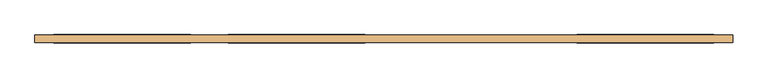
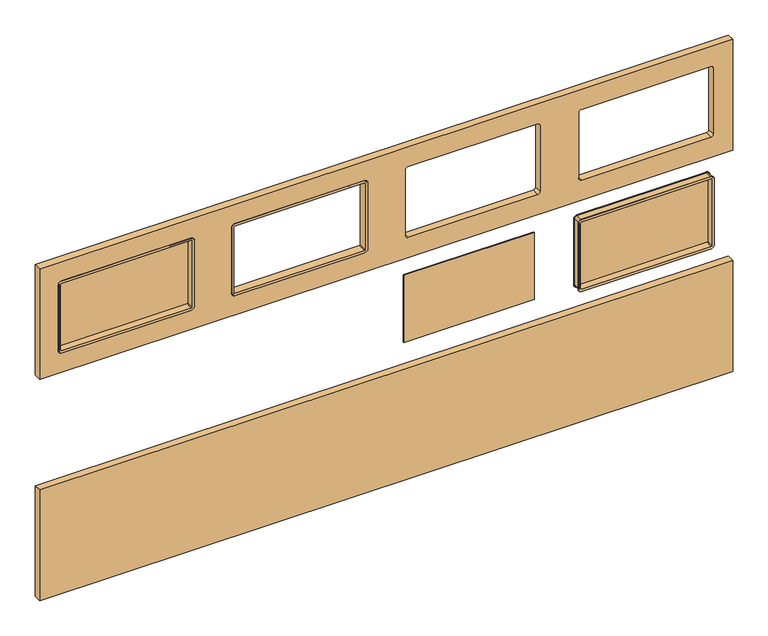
"""IFC4 building model written with IfcOpenShell, lengths in millimetres: door geometry, Vrata Nassau 9000F : Vrata Nassau 9000F."""

from ifc_helpers import new_model, si_unit, point, frame, frame_2d, origin, place, context, project, spatial, polyline, circle_curve, trimmed, segment, composite_curve, outline, extrude, source, transform, mapped, element, save
from ifc_brep_helpers import plane_surface, cylinder_surface, revolved_surface, advanced_brep


def door_9133259a(model_context):
    return source(origin(), model_context, "Body", "SolidModel", [
        advanced_brep(
        [(-887.5, -225.5, 2063.0), (-887.5, -269.5, 2063.0), (-887.5, -269.5, 2463.0), (-887.5, -225.5, 2463.0), (-892.5, -223.5, 2063.0), (-892.5, -225.5, 2063.0), (-892.5, -225.5, 2463.0), (-892.5, -223.5, 2463.0), (-877.5, -271.5, 2063.0), (-877.5, -223.5, 2063.0), (-877.5, -223.5, 2463.0), (-877.5, -271.5, 2463.0), (-892.5, -269.5, 2063.0), (-892.5, -271.5, 2063.0), (-892.5, -271.5, 2463.0), (-892.5, -269.5, 2463.0), (-872.5, -225.5, 2478.0), (-872.5, -269.5, 2478.0), (-127.5, -269.5, 2478.0), (-127.5, -225.5, 2478.0), (-872.5, -223.5, 2483.0), (-872.5, -225.5, 2483.0), (-127.5, -225.5, 2483.0), (-127.5, -223.5, 2483.0), (-872.5, -271.5, 2468.0), (-872.5, -223.5, 2468.0), (-127.5, -223.5, 2468.0), (-127.5, -271.5, 2468.0), (-872.5, -269.5, 2483.0), (-872.5, -271.5, 2483.0), (-127.5, -271.5, 2483.0), (-127.5, -269.5, 2483.0), (-112.5, -225.5, 2463.0), (-112.5, -269.5, 2463.0), (-112.5, -269.5, 2063.0), (-112.5, -225.5, 2063.0), (-107.5, -223.5, 2463.0), (-107.5, -225.5, 2463.0), (-107.5, -225.5, 2063.0), (-107.5, -223.5, 2063.0), (-122.5, -271.5, 2463.0), (-122.5, -223.5, 2463.0), (-122.5, -223.5, 2063.0), (-122.5, -271.5, 2063.0), (-107.5, -269.5, 2463.0), (-107.5, -271.5, 2463.0), (-107.5, -271.5, 2063.0), (-107.5, -269.5, 2063.0), (-127.5, -225.5, 2048.0), (-127.5, -269.5, 2048.0), (-872.5, -269.5, 2048.0), (-872.5, -225.5, 2048.0), (-127.5, -223.5, 2043.0), (-127.5, -225.5, 2043.0), (-872.5, -225.5, 2043.0), (-872.5, -223.5, 2043.0), (-127.5, -271.5, 2058.0), (-127.5, -223.5, 2058.0), (-872.5, -223.5, 2058.0), (-872.5, -271.5, 2058.0), (-127.5, -269.5, 2043.0), (-127.5, -271.5, 2043.0), (-872.5, -271.5, 2043.0), (-872.5, -269.5, 2043.0)],
        [
            (0, 1),
            (1, 2),
            (2, 3),
            (3, 0),
            (4, 5),
            (5, 6),
            (6, 7),
            (7, 4),
            (8, 9),
            (9, 10),
            (10, 11),
            (11, 8),
            (12, 13),
            (13, 14),
            (14, 15),
            (15, 12),
            (16, 17),
            (17, 18),
            (18, 19),
            (19, 16),
            (20, 21),
            (21, 22),
            (22, 23),
            (23, 20),
            (24, 25),
            (25, 26),
            (26, 27),
            (27, 24),
            (28, 29),
            (29, 30),
            (30, 31),
            (31, 28),
            (32, 33),
            (33, 34),
            (34, 35),
            (35, 32),
            (36, 37),
            (37, 38),
            (38, 39),
            (39, 36),
            (40, 41),
            (41, 42),
            (42, 43),
            (43, 40),
            (44, 45),
            (45, 46),
            (46, 47),
            (47, 44),
            (48, 49),
            (49, 50),
            (50, 51),
            (51, 48),
            (52, 53),
            (53, 54),
            (54, 55),
            (55, 52),
            (56, 57),
            (57, 58),
            (58, 59),
            (59, 56),
            (60, 61),
            (61, 62),
            (62, 63),
            (63, 60),
            (0, 51, circle_curve(frame((-872.5, -225.5, 2063.0), z_axis=(0.0, -1.0, 0.0), x_axis=(0.0, 0.0, -1.0)), 15.0)),
            (50, 1, circle_curve(frame((-872.5, -269.5, 2063.0), z_axis=(0.0, 1.0, 0.0), x_axis=(0.0, 0.0, -1.0)), 15.0)),
            (4, 55, circle_curve(frame((-872.5, -223.5, 2063.0), z_axis=(0.0, -1.0, 0.0), x_axis=(0.0, 0.0, -1.0)), 20.0)),
            (54, 5, circle_curve(frame((-872.5, -225.5, 2063.0), z_axis=(0.0, 1.0, 0.0), x_axis=(0.0, 0.0, -1.0)), 20.0)),
            (8, 59, circle_curve(frame((-872.5, -271.5, 2063.0), z_axis=(0.0, -1.0, 0.0), x_axis=(0.0, 0.0, -1.0)), 5.0)),
            (58, 9, circle_curve(frame((-872.5, -223.5, 2063.0), z_axis=(0.0, 1.0, 0.0), x_axis=(0.0, 0.0, -1.0)), 5.0)),
            (12, 63, circle_curve(frame((-872.5, -269.5, 2063.0), z_axis=(0.0, -1.0, 0.0), x_axis=(0.0, 0.0, -1.0)), 20.0)),
            (62, 13, circle_curve(frame((-872.5, -271.5, 2063.0), z_axis=(0.0, 1.0, 0.0), x_axis=(0.0, 0.0, -1.0)), 20.0)),
            (16, 3, circle_curve(frame((-872.5, -225.5, 2463.0), z_axis=(0.0, -1.0, 0.0), x_axis=(-1.0, 0.0, 0.0)), 15.0)),
            (2, 17, circle_curve(frame((-872.5, -269.5, 2463.0), z_axis=(0.0, 1.0, 0.0), x_axis=(-1.0, 0.0, 0.0)), 15.0)),
            (20, 7, circle_curve(frame((-872.5, -223.5, 2463.0), z_axis=(0.0, -1.0, 0.0), x_axis=(-1.0, 0.0, 0.0)), 20.0)),
            (6, 21, circle_curve(frame((-872.5, -225.5, 2463.0), z_axis=(0.0, 1.0, 0.0), x_axis=(-1.0, 0.0, 0.0)), 20.0)),
            (24, 11, circle_curve(frame((-872.5, -271.5, 2463.0), z_axis=(0.0, -1.0, 0.0), x_axis=(-1.0, 0.0, 0.0)), 5.0)),
            (10, 25, circle_curve(frame((-872.5, -223.5, 2463.0), z_axis=(0.0, 1.0, 0.0), x_axis=(-1.0, 0.0, 0.0)), 5.0)),
            (28, 15, circle_curve(frame((-872.5, -269.5, 2463.0), z_axis=(0.0, -1.0, 0.0), x_axis=(-1.0, 0.0, 0.0)), 20.0)),
            (14, 29, circle_curve(frame((-872.5, -271.5, 2463.0), z_axis=(0.0, 1.0, 0.0), x_axis=(-1.0, 0.0, 0.0)), 20.0)),
            (32, 19, circle_curve(frame((-127.5, -225.5, 2463.0), z_axis=(0.0, -1.0, 0.0), x_axis=(0.0, 0.0, 1.0)), 15.0)),
            (18, 33, circle_curve(frame((-127.5, -269.5, 2463.0), z_axis=(0.0, 1.0, 0.0), x_axis=(0.0, 0.0, 1.0)), 15.0)),
            (36, 23, circle_curve(frame((-127.5, -223.5, 2463.0), z_axis=(0.0, -1.0, 0.0), x_axis=(0.0, 0.0, 1.0)), 20.0)),
            (22, 37, circle_curve(frame((-127.5, -225.5, 2463.0), z_axis=(0.0, 1.0, 0.0), x_axis=(0.0, 0.0, 1.0)), 20.0)),
            (40, 27, circle_curve(frame((-127.5, -271.5, 2463.0), z_axis=(0.0, -1.0, 0.0), x_axis=(0.0, 0.0, 1.0)), 5.0)),
            (26, 41, circle_curve(frame((-127.5, -223.5, 2463.0), z_axis=(0.0, 1.0, 0.0), x_axis=(0.0, 0.0, 1.0)), 5.0)),
            (44, 31, circle_curve(frame((-127.5, -269.5, 2463.0), z_axis=(0.0, -1.0, 0.0), x_axis=(0.0, 0.0, 1.0)), 20.0)),
            (30, 45, circle_curve(frame((-127.5, -271.5, 2463.0), z_axis=(0.0, 1.0, 0.0), x_axis=(0.0, 0.0, 1.0)), 20.0)),
            (47, 60, circle_curve(frame((-127.5, -269.5, 2063.0), z_axis=(0.0, 1.0, 0.0), x_axis=(1.0, 0.0, 0.0)), 20.0)),
            (49, 34, circle_curve(frame((-127.5, -269.5, 2063.0), z_axis=(0.0, -1.0, 0.0), x_axis=(1.0, 0.0, 0.0)), 15.0)),
            (48, 35, circle_curve(frame((-127.5, -225.5, 2063.0), z_axis=(0.0, -1.0, 0.0), x_axis=(1.0, 0.0, 0.0)), 15.0)),
            (53, 38, circle_curve(frame((-127.5, -225.5, 2063.0), z_axis=(0.0, -1.0, 0.0), x_axis=(1.0, 0.0, 0.0)), 20.0)),
            (52, 39, circle_curve(frame((-127.5, -223.5, 2063.0), z_axis=(0.0, -1.0, 0.0), x_axis=(1.0, 0.0, 0.0)), 20.0)),
            (57, 42, circle_curve(frame((-127.5, -223.5, 2063.0), z_axis=(0.0, -1.0, 0.0), x_axis=(1.0, 0.0, 0.0)), 5.0)),
            (56, 43, circle_curve(frame((-127.5, -271.5, 2063.0), z_axis=(0.0, -1.0, 0.0), x_axis=(1.0, 0.0, 0.0)), 5.0)),
            (61, 46, circle_curve(frame((-127.5, -271.5, 2063.0), z_axis=(0.0, -1.0, 0.0), x_axis=(1.0, 0.0, 0.0)), 20.0)),
        ],
        [
            plane_surface(frame((-887.5, -269.5, 2063.0), z_axis=(-1.0, 0.0, 0.0), x_axis=(0.0, 0.0, 1.0))),
            plane_surface(frame((-892.5, -225.5, 2063.0), z_axis=(-1.0, 0.0, 0.0), x_axis=(0.0, 0.0, 1.0))),
            plane_surface(frame((-877.5, -223.5, 2063.0), z_axis=(1.0, 0.0, 0.0), x_axis=(0.0, 0.0, 1.0))),
            plane_surface(frame((-892.5, -271.5, 2063.0), z_axis=(-1.0, 0.0, 0.0), x_axis=(0.0, 0.0, 1.0))),
            plane_surface(frame((-872.5, -269.5, 2478.0), z_axis=(0.0, 0.0, 1.0), x_axis=(1.0, 0.0, 0.0))),
            plane_surface(frame((-872.5, -225.5, 2483.0), z_axis=(0.0, 0.0, 1.0), x_axis=(1.0, 0.0, 0.0))),
            plane_surface(frame((-872.5, -223.5, 2468.0), z_axis=(0.0, 0.0, -1.0), x_axis=(1.0, 0.0, 0.0))),
            plane_surface(frame((-872.5, -271.5, 2483.0), z_axis=(0.0, 0.0, 1.0), x_axis=(1.0, 0.0, 0.0))),
            plane_surface(frame((-112.5, -269.5, 2463.0), z_axis=(1.0, 0.0, 0.0), x_axis=(0.0, 0.0, -1.0))),
            plane_surface(frame((-107.5, -225.5, 2463.0), z_axis=(1.0, 0.0, 0.0), x_axis=(0.0, 0.0, -1.0))),
            plane_surface(frame((-122.5, -223.5, 2463.0), z_axis=(-1.0, 0.0, 0.0), x_axis=(0.0, 0.0, -1.0))),
            plane_surface(frame((-107.5, -271.5, 2463.0), z_axis=(1.0, 0.0, 0.0), x_axis=(0.0, 0.0, -1.0))),
            plane_surface(frame((-127.5, -269.5, 2048.0), z_axis=(0.0, 0.0, -1.0), x_axis=(-1.0, 0.0, 0.0))),
            plane_surface(frame((-127.5, -225.5, 2043.0), z_axis=(0.0, 0.0, -1.0), x_axis=(-1.0, 0.0, 0.0))),
            plane_surface(frame((-127.5, -223.5, 2058.0), z_axis=(0.0, 0.0, 1.0), x_axis=(-1.0, 0.0, 0.0))),
            plane_surface(frame((-127.5, -271.5, 2043.0), z_axis=(0.0, 0.0, -1.0), x_axis=(-1.0, 0.0, 0.0))),
            cylinder_surface(frame((-872.5, -225.5, 2063.0), z_axis=(0.0, 1.0, 0.0), x_axis=(0.0, 0.0, -1.0)), 15.0),
            cylinder_surface(frame((-872.5, -225.5, 2063.0), z_axis=(0.0, 1.0, 0.0), x_axis=(0.0, 0.0, -1.0)), 20.0),
            revolved_surface(polyline([(-872.5, -223.5, 2058.0), (-872.5, -271.5, 2058.0)]), (-872.5, -225.5, 2063.0), (0.0, 1.0, 0.0)),
            cylinder_surface(frame((-872.5, -225.5, 2463.0), z_axis=(0.0, 1.0, 0.0), x_axis=(-1.0, 0.0, 0.0)), 15.0),
            cylinder_surface(frame((-872.5, -225.5, 2463.0), z_axis=(0.0, 1.0, 0.0), x_axis=(-1.0, 0.0, 0.0)), 20.0),
            revolved_surface(polyline([(-877.5, -223.5, 2463.0), (-877.5, -271.5, 2463.0)]), (-872.5, -225.5, 2463.0), (0.0, 1.0, 0.0)),
            cylinder_surface(frame((-127.5, -225.5, 2463.0), z_axis=(0.0, 1.0, 0.0), x_axis=(0.0, 0.0, 1.0)), 15.0),
            cylinder_surface(frame((-127.5, -225.5, 2463.0), z_axis=(0.0, 1.0, 0.0), x_axis=(0.0, 0.0, 1.0)), 20.0),
            revolved_surface(polyline([(-127.5, -223.5, 2468.0), (-127.5, -271.5, 2468.0)]), (-127.5, -225.5, 2463.0), (0.0, 1.0, 0.0)),
            plane_surface(frame((-127.5, -269.5, 2063.0), z_axis=(0.0, 1.0, 0.0), x_axis=(1.0, 0.0, 0.0))),
            cylinder_surface(frame((-127.5, -225.5, 2063.0), z_axis=(0.0, 1.0, 0.0), x_axis=(1.0, 0.0, 0.0)), 15.0),
            plane_surface(frame((-127.5, -225.5, 2063.0), z_axis=(0.0, -1.0, 0.0), x_axis=(1.0, 0.0, 0.0))),
            cylinder_surface(frame((-127.5, -225.5, 2063.0), z_axis=(0.0, 1.0, 0.0), x_axis=(1.0, 0.0, 0.0)), 20.0),
            plane_surface(frame((-127.5, -223.5, 2063.0), z_axis=(0.0, 1.0, 0.0), x_axis=(1.0, 0.0, 0.0))),
            revolved_surface(polyline([(-122.5, -223.5, 2063.0), (-122.5, -271.5, 2063.0)]), (-127.5, -225.5, 2063.0), (0.0, 1.0, 0.0)),
            plane_surface(frame((-127.5, -271.5, 2063.0), z_axis=(0.0, -1.0, 0.0), x_axis=(1.0, 0.0, 0.0))),
        ],
        [
            (0, [[1, 2, 3, 4]]),
            (1, [[5, 6, 7, 8]]),
            (2, [[9, 10, 11, 12]]),
            (3, [[13, 14, 15, 16]]),
            (4, [[17, 18, 19, 20]]),
            (5, [[21, 22, 23, 24]]),
            (6, [[25, 26, 27, 28]]),
            (7, [[29, 30, 31, 32]]),
            (8, [[33, 34, 35, 36]]),
            (9, [[37, 38, 39, 40]]),
            (10, [[41, 42, 43, 44]]),
            (11, [[45, 46, 47, 48]]),
            (12, [[49, 50, 51, 52]]),
            (13, [[53, 54, 55, 56]]),
            (14, [[57, 58, 59, 60]]),
            (15, [[61, 62, 63, 64]]),
            (16, [[65, -51, 66, -1]]),
            (17, [[67, -55, 68, -5]]),
            (18, [[69, -59, 70, -9]]),
            (17, [[71, -63, 72, -13]]),
            (19, [[73, -3, 74, -17]]),
            (20, [[75, -7, 76, -21]]),
            (21, [[77, -11, 78, -25]]),
            (20, [[79, -15, 80, -29]]),
            (22, [[81, -19, 82, -33]]),
            (23, [[83, -23, 84, -37]]),
            (24, [[85, -27, 86, -41]]),
            (23, [[87, -31, 88, -45]]),
            (25, [[-32, -87, -48, 89, -64, -71, -16, -79], [90, -34, -82, -18, -74, -2, -66, -50]]),
            (26, [[91, -35, -90, -49]]),
            (27, [[92, -38, -84, -22, -76, -6, -68, -54], [-20, -81, -36, -91, -52, -65, -4, -73]]),
            (28, [[93, -39, -92, -53]]),
            (29, [[-24, -83, -40, -93, -56, -67, -8, -75], [94, -42, -86, -26, -78, -10, -70, -58]]),
            (30, [[95, -43, -94, -57]]),
            (31, [[96, -46, -88, -30, -80, -14, -72, -62], [-28, -85, -44, -95, -60, -69, -12, -77]]),
            (28, [[-89, -47, -96, -61]]),
        ],
    ),
        extrude(outline(composite_curve([segment(polyline([(2058.0, -1872.5), (2058.0, -1127.5)]), True, "CONTINUOUS"), segment(trimmed(circle_curve(frame_2d((2063.0, -1127.5)), 5.0), [point((2058.0, -1127.5))], [point((2063.0, -1122.5))], False, "CARTESIAN"), True, "CONTINUOUS"), segment(polyline([(2063.0, -1122.5), (2463.0, -1122.5)]), True, "CONTINUOUS"), segment(trimmed(circle_curve(frame_2d((2463.0, -1127.5)), 5.0), [point((2463.0, -1122.5))], [point((2468.0, -1127.5))], False, "CARTESIAN"), True, "CONTINUOUS"), segment(polyline([(2468.0, -1127.5), (2468.0, -1872.5)]), True, "CONTINUOUS"), segment(trimmed(circle_curve(frame_2d((2463.0, -1872.5)), 5.0), [point((2468.0, -1872.5))], [point((2463.0, -1877.5))], False, "CARTESIAN"), True, "CONTINUOUS"), segment(polyline([(2463.0, -1877.5), (2063.0, -1877.5)]), True, "CONTINUOUS"), segment(trimmed(circle_curve(frame_2d((2063.0, -1872.5)), 5.0), [point((2063.0, -1877.5))], [point((2058.0, -1872.5))], False, "CARTESIAN"), True, "CONTINUOUS")], self_intersect=False)), frame((0.0, -230.5, 0.0), z_axis=(0.0, 1.0, 0.0), x_axis=(0.0, 0.0, 1.0)), (0.0, 0.0, 1.0), 5.0),
        advanced_brep(
        [(-1887.5, -225.5, 2063.0), (-1887.5, -269.5, 2063.0), (-1887.5, -269.5, 2463.0), (-1887.5, -225.5, 2463.0), (-1892.5, -223.5, 2063.0), (-1892.5, -225.5, 2063.0), (-1892.5, -225.5, 2463.0), (-1892.5, -223.5, 2463.0), (-1877.5, -271.5, 2063.0), (-1877.5, -223.5, 2063.0), (-1877.5, -223.5, 2463.0), (-1877.5, -271.5, 2463.0), (-1892.5, -269.5, 2063.0), (-1892.5, -271.5, 2063.0), (-1892.5, -271.5, 2463.0), (-1892.5, -269.5, 2463.0), (-1872.5, -225.5, 2478.0), (-1872.5, -269.5, 2478.0), (-1127.5, -269.5, 2478.0), (-1127.5, -225.5, 2478.0), (-1872.5, -223.5, 2483.0), (-1872.5, -225.5, 2483.0), (-1127.5, -225.5, 2483.0), (-1127.5, -223.5, 2483.0), (-1872.5, -271.5, 2468.0), (-1872.5, -223.5, 2468.0), (-1127.5, -223.5, 2468.0), (-1127.5, -271.5, 2468.0), (-1872.5, -269.5, 2483.0), (-1872.5, -271.5, 2483.0), (-1127.5, -271.5, 2483.0), (-1127.5, -269.5, 2483.0), (-1112.5, -225.5, 2463.0), (-1112.5, -269.5, 2463.0), (-1112.5, -269.5, 2063.0), (-1112.5, -225.5, 2063.0), (-1107.5, -223.5, 2463.0), (-1107.5, -225.5, 2463.0), (-1107.5, -225.5, 2063.0), (-1107.5, -223.5, 2063.0), (-1122.5, -271.5, 2463.0), (-1122.5, -223.5, 2463.0), (-1122.5, -223.5, 2063.0), (-1122.5, -271.5, 2063.0), (-1107.5, -269.5, 2463.0), (-1107.5, -271.5, 2463.0), (-1107.5, -271.5, 2063.0), (-1107.5, -269.5, 2063.0), (-1127.5, -225.5, 2048.0), (-1127.5, -269.5, 2048.0), (-1872.5, -269.5, 2048.0), (-1872.5, -225.5, 2048.0), (-1127.5, -223.5, 2043.0), (-1127.5, -225.5, 2043.0), (-1872.5, -225.5, 2043.0), (-1872.5, -223.5, 2043.0), (-1127.5, -271.5, 2058.0), (-1127.5, -223.5, 2058.0), (-1872.5, -223.5, 2058.0), (-1872.5, -271.5, 2058.0), (-1127.5, -269.5, 2043.0), (-1127.5, -271.5, 2043.0), (-1872.5, -271.5, 2043.0), (-1872.5, -269.5, 2043.0)],
        [
            (0, 1),
            (1, 2),
            (2, 3),
            (3, 0),
            (4, 5),
            (5, 6),
            (6, 7),
            (7, 4),
            (8, 9),
            (9, 10),
            (10, 11),
            (11, 8),
            (12, 13),
            (13, 14),
            (14, 15),
            (15, 12),
            (16, 17),
            (17, 18),
            (18, 19),
            (19, 16),
            (20, 21),
            (21, 22),
            (22, 23),
            (23, 20),
            (24, 25),
            (25, 26),
            (26, 27),
            (27, 24),
            (28, 29),
            (29, 30),
            (30, 31),
            (31, 28),
            (32, 33),
            (33, 34),
            (34, 35),
            (35, 32),
            (36, 37),
            (37, 38),
            (38, 39),
            (39, 36),
            (40, 41),
            (41, 42),
            (42, 43),
            (43, 40),
            (44, 45),
            (45, 46),
            (46, 47),
            (47, 44),
            (48, 49),
            (49, 50),
            (50, 51),
            (51, 48),
            (52, 53),
            (53, 54),
            (54, 55),
            (55, 52),
            (56, 57),
            (57, 58),
            (58, 59),
            (59, 56),
            (60, 61),
            (61, 62),
            (62, 63),
            (63, 60),
            (0, 51, circle_curve(frame((-1872.5, -225.5, 2063.0), z_axis=(0.0, -1.0, 0.0), x_axis=(0.0, 0.0, -1.0)), 15.0)),
            (50, 1, circle_curve(frame((-1872.5, -269.5, 2063.0), z_axis=(0.0, 1.0, 0.0), x_axis=(0.0, 0.0, -1.0)), 15.0)),
            (4, 55, circle_curve(frame((-1872.5, -223.5, 2063.0), z_axis=(0.0, -1.0, 0.0), x_axis=(0.0, 0.0, -1.0)), 20.0)),
            (54, 5, circle_curve(frame((-1872.5, -225.5, 2063.0), z_axis=(0.0, 1.0, 0.0), x_axis=(0.0, 0.0, -1.0)), 20.0)),
            (8, 59, circle_curve(frame((-1872.5, -271.5, 2063.0), z_axis=(0.0, -1.0, 0.0), x_axis=(0.0, 0.0, -1.0)), 5.0)),
            (58, 9, circle_curve(frame((-1872.5, -223.5, 2063.0), z_axis=(0.0, 1.0, 0.0), x_axis=(0.0, 0.0, -1.0)), 5.0)),
            (12, 63, circle_curve(frame((-1872.5, -269.5, 2063.0), z_axis=(0.0, -1.0, 0.0), x_axis=(0.0, 0.0, -1.0)), 20.0)),
            (62, 13, circle_curve(frame((-1872.5, -271.5, 2063.0), z_axis=(0.0, 1.0, 0.0), x_axis=(0.0, 0.0, -1.0)), 20.0)),
            (16, 3, circle_curve(frame((-1872.5, -225.5, 2463.0), z_axis=(0.0, -1.0, 0.0), x_axis=(-1.0, 0.0, 0.0)), 15.0)),
            (2, 17, circle_curve(frame((-1872.5, -269.5, 2463.0), z_axis=(0.0, 1.0, 0.0), x_axis=(-1.0, 0.0, 0.0)), 15.0)),
            (20, 7, circle_curve(frame((-1872.5, -223.5, 2463.0), z_axis=(0.0, -1.0, 0.0), x_axis=(-1.0, 0.0, 0.0)), 20.0)),
            (6, 21, circle_curve(frame((-1872.5, -225.5, 2463.0), z_axis=(0.0, 1.0, 0.0), x_axis=(-1.0, 0.0, 0.0)), 20.0)),
            (24, 11, circle_curve(frame((-1872.5, -271.5, 2463.0), z_axis=(0.0, -1.0, 0.0), x_axis=(-1.0, 0.0, 0.0)), 5.0)),
            (10, 25, circle_curve(frame((-1872.5, -223.5, 2463.0), z_axis=(0.0, 1.0, 0.0), x_axis=(-1.0, 0.0, 0.0)), 5.0)),
            (28, 15, circle_curve(frame((-1872.5, -269.5, 2463.0), z_axis=(0.0, -1.0, 0.0), x_axis=(-1.0, 0.0, 0.0)), 20.0)),
            (14, 29, circle_curve(frame((-1872.5, -271.5, 2463.0), z_axis=(0.0, 1.0, 0.0), x_axis=(-1.0, 0.0, 0.0)), 20.0)),
            (32, 19, circle_curve(frame((-1127.5, -225.5, 2463.0), z_axis=(0.0, -1.0, 0.0), x_axis=(0.0, 0.0, 1.0)), 15.0)),
            (18, 33, circle_curve(frame((-1127.5, -269.5, 2463.0), z_axis=(0.0, 1.0, 0.0), x_axis=(0.0, 0.0, 1.0)), 15.0)),
            (36, 23, circle_curve(frame((-1127.5, -223.5, 2463.0), z_axis=(0.0, -1.0, 0.0), x_axis=(0.0, 0.0, 1.0)), 20.0)),
            (22, 37, circle_curve(frame((-1127.5, -225.5, 2463.0), z_axis=(0.0, 1.0, 0.0), x_axis=(0.0, 0.0, 1.0)), 20.0)),
            (40, 27, circle_curve(frame((-1127.5, -271.5, 2463.0), z_axis=(0.0, -1.0, 0.0), x_axis=(0.0, 0.0, 1.0)), 5.0)),
            (26, 41, circle_curve(frame((-1127.5, -223.5, 2463.0), z_axis=(0.0, 1.0, 0.0), x_axis=(0.0, 0.0, 1.0)), 5.0)),
            (44, 31, circle_curve(frame((-1127.5, -269.5, 2463.0), z_axis=(0.0, -1.0, 0.0), x_axis=(0.0, 0.0, 1.0)), 20.0)),
            (30, 45, circle_curve(frame((-1127.5, -271.5, 2463.0), z_axis=(0.0, 1.0, 0.0), x_axis=(0.0, 0.0, 1.0)), 20.0)),
            (47, 60, circle_curve(frame((-1127.5, -269.5, 2063.0), z_axis=(0.0, 1.0, 0.0), x_axis=(1.0, 0.0, 0.0)), 20.0)),
            (49, 34, circle_curve(frame((-1127.5, -269.5, 2063.0), z_axis=(0.0, -1.0, 0.0), x_axis=(1.0, 0.0, 0.0)), 15.0)),
            (48, 35, circle_curve(frame((-1127.5, -225.5, 2063.0), z_axis=(0.0, -1.0, 0.0), x_axis=(1.0, 0.0, 0.0)), 15.0)),
            (53, 38, circle_curve(frame((-1127.5, -225.5, 2063.0), z_axis=(0.0, -1.0, 0.0), x_axis=(1.0, 0.0, 0.0)), 20.0)),
            (52, 39, circle_curve(frame((-1127.5, -223.5, 2063.0), z_axis=(0.0, -1.0, 0.0), x_axis=(1.0, 0.0, 0.0)), 20.0)),
            (57, 42, circle_curve(frame((-1127.5, -223.5, 2063.0), z_axis=(0.0, -1.0, 0.0), x_axis=(1.0, 0.0, 0.0)), 5.0)),
            (56, 43, circle_curve(frame((-1127.5, -271.5, 2063.0), z_axis=(0.0, -1.0, 0.0), x_axis=(1.0, 0.0, 0.0)), 5.0)),
            (61, 46, circle_curve(frame((-1127.5, -271.5, 2063.0), z_axis=(0.0, -1.0, 0.0), x_axis=(1.0, 0.0, 0.0)), 20.0)),
        ],
        [
            plane_surface(frame((-1887.5, -269.5, 2063.0), z_axis=(-1.0, 0.0, 0.0), x_axis=(0.0, 0.0, 1.0))),
            plane_surface(frame((-1892.5, -225.5, 2063.0), z_axis=(-1.0, 0.0, 0.0), x_axis=(0.0, 0.0, 1.0))),
            plane_surface(frame((-1877.5, -223.5, 2063.0), z_axis=(1.0, 0.0, 0.0), x_axis=(0.0, 0.0, 1.0))),
            plane_surface(frame((-1892.5, -271.5, 2063.0), z_axis=(-1.0, 0.0, 0.0), x_axis=(0.0, 0.0, 1.0))),
            plane_surface(frame((-1872.5, -269.5, 2478.0), z_axis=(0.0, 0.0, 1.0), x_axis=(1.0, 0.0, 0.0))),
            plane_surface(frame((-1872.5, -225.5, 2483.0), z_axis=(0.0, 0.0, 1.0), x_axis=(1.0, 0.0, 0.0))),
            plane_surface(frame((-1872.5, -223.5, 2468.0), z_axis=(0.0, 0.0, -1.0), x_axis=(1.0, 0.0, 0.0))),
            plane_surface(frame((-1872.5, -271.5, 2483.0), z_axis=(0.0, 0.0, 1.0), x_axis=(1.0, 0.0, 0.0))),
            plane_surface(frame((-1112.5, -269.5, 2463.0), z_axis=(1.0, 0.0, 0.0), x_axis=(0.0, 0.0, -1.0))),
            plane_surface(frame((-1107.5, -225.5, 2463.0), z_axis=(1.0, 0.0, 0.0), x_axis=(0.0, 0.0, -1.0))),
            plane_surface(frame((-1122.5, -223.5, 2463.0), z_axis=(-1.0, 0.0, 0.0), x_axis=(0.0, 0.0, -1.0))),
            plane_surface(frame((-1107.5, -271.5, 2463.0), z_axis=(1.0, 0.0, 0.0), x_axis=(0.0, 0.0, -1.0))),
            plane_surface(frame((-1127.5, -269.5, 2048.0), z_axis=(0.0, 0.0, -1.0), x_axis=(-1.0, 0.0, 0.0))),
            plane_surface(frame((-1127.5, -225.5, 2043.0), z_axis=(0.0, 0.0, -1.0), x_axis=(-1.0, 0.0, 0.0))),
            plane_surface(frame((-1127.5, -223.5, 2058.0), z_axis=(0.0, 0.0, 1.0), x_axis=(-1.0, 0.0, 0.0))),
            plane_surface(frame((-1127.5, -271.5, 2043.0), z_axis=(0.0, 0.0, -1.0), x_axis=(-1.0, 0.0, 0.0))),
            cylinder_surface(frame((-1872.5, -225.5, 2063.0), z_axis=(0.0, 1.0, 0.0), x_axis=(0.0, 0.0, -1.0)), 15.0),
            cylinder_surface(frame((-1872.5, -225.5, 2063.0), z_axis=(0.0, 1.0, 0.0), x_axis=(0.0, 0.0, -1.0)), 20.0),
            revolved_surface(polyline([(-1872.5, -223.5, 2058.0), (-1872.5, -271.5, 2058.0)]), (-1872.5, -225.5, 2063.0), (0.0, 1.0, 0.0)),
            cylinder_surface(frame((-1872.5, -225.5, 2463.0), z_axis=(0.0, 1.0, 0.0), x_axis=(-1.0, 0.0, 0.0)), 15.0),
            cylinder_surface(frame((-1872.5, -225.5, 2463.0), z_axis=(0.0, 1.0, 0.0), x_axis=(-1.0, 0.0, 0.0)), 20.0),
            revolved_surface(polyline([(-1877.5, -223.5, 2463.0), (-1877.5, -271.5, 2463.0)]), (-1872.5, -225.5, 2463.0), (0.0, 1.0, 0.0)),
            cylinder_surface(frame((-1127.5, -225.5, 2463.0), z_axis=(0.0, 1.0, 0.0), x_axis=(0.0, 0.0, 1.0)), 15.0),
            cylinder_surface(frame((-1127.5, -225.5, 2463.0), z_axis=(0.0, 1.0, 0.0), x_axis=(0.0, 0.0, 1.0)), 20.0),
            revolved_surface(polyline([(-1127.5, -223.5, 2468.0), (-1127.5, -271.5, 2468.0)]), (-1127.5, -225.5, 2463.0), (0.0, 1.0, 0.0)),
            plane_surface(frame((-1127.5, -269.5, 2063.0), z_axis=(0.0, 1.0, 0.0), x_axis=(1.0, 0.0, 0.0))),
            cylinder_surface(frame((-1127.5, -225.5, 2063.0), z_axis=(0.0, 1.0, 0.0), x_axis=(1.0, 0.0, 0.0)), 15.0),
            plane_surface(frame((-1127.5, -225.5, 2063.0), z_axis=(0.0, -1.0, 0.0), x_axis=(1.0, 0.0, 0.0))),
            cylinder_surface(frame((-1127.5, -225.5, 2063.0), z_axis=(0.0, 1.0, 0.0), x_axis=(1.0, 0.0, 0.0)), 20.0),
            plane_surface(frame((-1127.5, -223.5, 2063.0), z_axis=(0.0, 1.0, 0.0), x_axis=(1.0, 0.0, 0.0))),
            revolved_surface(polyline([(-1122.5, -223.5, 2063.0), (-1122.5, -271.5, 2063.0)]), (-1127.5, -225.5, 2063.0), (0.0, 1.0, 0.0)),
            plane_surface(frame((-1127.5, -271.5, 2063.0), z_axis=(0.0, -1.0, 0.0), x_axis=(1.0, 0.0, 0.0))),
        ],
        [
            (0, [[1, 2, 3, 4]]),
            (1, [[5, 6, 7, 8]]),
            (2, [[9, 10, 11, 12]]),
            (3, [[13, 14, 15, 16]]),
            (4, [[17, 18, 19, 20]]),
            (5, [[21, 22, 23, 24]]),
            (6, [[25, 26, 27, 28]]),
            (7, [[29, 30, 31, 32]]),
            (8, [[33, 34, 35, 36]]),
            (9, [[37, 38, 39, 40]]),
            (10, [[41, 42, 43, 44]]),
            (11, [[45, 46, 47, 48]]),
            (12, [[49, 50, 51, 52]]),
            (13, [[53, 54, 55, 56]]),
            (14, [[57, 58, 59, 60]]),
            (15, [[61, 62, 63, 64]]),
            (16, [[65, -51, 66, -1]]),
            (17, [[67, -55, 68, -5]]),
            (18, [[69, -59, 70, -9]]),
            (17, [[71, -63, 72, -13]]),
            (19, [[73, -3, 74, -17]]),
            (20, [[75, -7, 76, -21]]),
            (21, [[77, -11, 78, -25]]),
            (20, [[79, -15, 80, -29]]),
            (22, [[81, -19, 82, -33]]),
            (23, [[83, -23, 84, -37]]),
            (24, [[85, -27, 86, -41]]),
            (23, [[87, -31, 88, -45]]),
            (25, [[-32, -87, -48, 89, -64, -71, -16, -79], [90, -34, -82, -18, -74, -2, -66, -50]]),
            (26, [[91, -35, -90, -49]]),
            (27, [[92, -38, -84, -22, -76, -6, -68, -54], [-20, -81, -36, -91, -52, -65, -4, -73]]),
            (28, [[93, -39, -92, -53]]),
            (29, [[-24, -83, -40, -93, -56, -67, -8, -75], [94, -42, -86, -26, -78, -10, -70, -58]]),
            (30, [[95, -43, -94, -57]]),
            (31, [[96, -46, -88, -30, -80, -14, -72, -62], [-28, -85, -44, -95, -60, -69, -12, -77]]),
            (28, [[-89, -47, -96, -61]]),
        ],
    ),
        extrude(outline(polyline([(1925.0, 2000.0), (2600.0, 2000.0), (2600.0, -2000.0), (1925.0, -2000.0), (1925.0, 2000.0)]), holes=[composite_curve([segment(polyline([(2478.0, -1872.5), (2478.0, -1127.5)]), True, "CONTINUOUS"), segment(trimmed(circle_curve(frame_2d((2463.0, -1127.5)), 15.0), [point((2478.0, -1127.5))], [point((2463.0, -1112.5))], True, "CARTESIAN"), True, "CONTINUOUS"), segment(polyline([(2463.0, -1112.5), (2063.0, -1112.5)]), True, "CONTINUOUS"), segment(trimmed(circle_curve(frame_2d((2063.0, -1127.5)), 15.0), [point((2063.0, -1112.5))], [point((2048.0, -1127.5))], True, "CARTESIAN"), True, "CONTINUOUS"), segment(polyline([(2048.0, -1127.5), (2048.0, -1872.5)]), True, "CONTINUOUS"), segment(trimmed(circle_curve(frame_2d((2063.0, -1872.5)), 15.0), [point((2048.0, -1872.5))], [point((2063.0, -1887.5))], True, "CARTESIAN"), True, "CONTINUOUS"), segment(polyline([(2063.0, -1887.5), (2463.0, -1887.5)]), True, "CONTINUOUS"), segment(trimmed(circle_curve(frame_2d((2463.0, -1872.5)), 15.0), [point((2463.0, -1887.5))], [point((2478.0, -1872.5))], True, "CARTESIAN"), True, "CONTINUOUS")], self_intersect=False), composite_curve([segment(polyline([(2478.0, -872.5), (2478.0, -127.5)]), True, "CONTINUOUS"), segment(trimmed(circle_curve(frame_2d((2463.0, -127.5)), 15.0), [point((2478.0, -127.5))], [point((2463.0, -112.5))], True, "CARTESIAN"), True, "CONTINUOUS"), segment(polyline([(2463.0, -112.5), (2063.0, -112.5)]), True, "CONTINUOUS"), segment(trimmed(circle_curve(frame_2d((2063.0, -127.5)), 15.0), [point((2063.0, -112.5))], [point((2048.0, -127.5))], True, "CARTESIAN"), True, "CONTINUOUS"), segment(polyline([(2048.0, -127.5), (2048.0, -872.5)]), True, "CONTINUOUS"), segment(trimmed(circle_curve(frame_2d((2063.0, -872.5)), 15.0), [point((2048.0, -872.5))], [point((2063.0, -887.5))], True, "CARTESIAN"), True, "CONTINUOUS"), segment(polyline([(2063.0, -887.5), (2463.0, -887.5)]), True, "CONTINUOUS"), segment(trimmed(circle_curve(frame_2d((2463.0, -872.5)), 15.0), [point((2463.0, -887.5))], [point((2478.0, -872.5))], True, "CARTESIAN"), True, "CONTINUOUS")], self_intersect=False), composite_curve([segment(polyline([(2478.0, 127.5), (2478.0, 872.5)]), True, "CONTINUOUS"), segment(trimmed(circle_curve(frame_2d((2463.0, 872.5)), 15.0), [point((2478.0, 872.5))], [point((2463.0, 887.5))], True, "CARTESIAN"), True, "CONTINUOUS"), segment(polyline([(2463.0, 887.5), (2063.0, 887.5)]), True, "CONTINUOUS"), segment(trimmed(circle_curve(frame_2d((2063.0, 872.5)), 15.0), [point((2063.0, 887.5))], [point((2048.0, 872.5))], True, "CARTESIAN"), True, "CONTINUOUS"), segment(polyline([(2048.0, 872.5), (2048.0, 127.5)]), True, "CONTINUOUS"), segment(trimmed(circle_curve(frame_2d((2063.0, 127.5)), 15.0), [point((2048.0, 127.5))], [point((2063.0, 112.5))], True, "CARTESIAN"), True, "CONTINUOUS"), segment(polyline([(2063.0, 112.5), (2463.0, 112.5)]), True, "CONTINUOUS"), segment(trimmed(circle_curve(frame_2d((2463.0, 127.5)), 15.0), [point((2463.0, 112.5))], [point((2478.0, 127.5))], True, "CARTESIAN"), True, "CONTINUOUS")], self_intersect=False), composite_curve([segment(polyline([(2478.0, 1127.5), (2478.0, 1872.5)]), True, "CONTINUOUS"), segment(trimmed(circle_curve(frame_2d((2463.0, 1872.5)), 15.0), [point((2478.0, 1872.5))], [point((2463.0, 1887.5))], True, "CARTESIAN"), True, "CONTINUOUS"), segment(polyline([(2463.0, 1887.5), (2063.0, 1887.5)]), True, "CONTINUOUS"), segment(trimmed(circle_curve(frame_2d((2063.0, 1872.5)), 15.0), [point((2063.0, 1887.5))], [point((2048.0, 1872.5))], True, "CARTESIAN"), True, "CONTINUOUS"), segment(polyline([(2048.0, 1872.5), (2048.0, 1127.5)]), True, "CONTINUOUS"), segment(trimmed(circle_curve(frame_2d((2063.0, 1127.5)), 15.0), [point((2048.0, 1127.5))], [point((2063.0, 1112.5))], True, "CARTESIAN"), True, "CONTINUOUS"), segment(polyline([(2063.0, 1112.5), (2463.0, 1112.5)]), True, "CONTINUOUS"), segment(trimmed(circle_curve(frame_2d((2463.0, 1127.5)), 15.0), [point((2463.0, 1112.5))], [point((2478.0, 1127.5))], True, "CARTESIAN"), True, "CONTINUOUS")], self_intersect=False)]), frame((0.0, -269.5, 0.0), z_axis=(0.0, 1.0, 0.0), x_axis=(0.0, 0.0, 1.0)), (0.0, 0.0, 1.0), 44.0),
        extrude(outline(polyline([(2000.0, -225.5), (2000.0, -269.5), (-2000.0, -269.5), (-2000.0, -225.5), (2000.0, -225.5)])), frame((0.0, 0.0, 575.0), z_axis=(0.0, 0.0, 1.0), x_axis=(1.0, 0.0, 0.0)), (0.0, 0.0, 1.0), 675.0),
        extrude(outline(composite_curve([segment(polyline([(1383.0, 1127.5), (1383.0, 1872.5)]), True, "CONTINUOUS"), segment(trimmed(circle_curve(frame_2d((1388.0, 1872.5)), 5.0), [point((1383.0, 1872.5))], [point((1388.0, 1877.5))], False, "CARTESIAN"), True, "CONTINUOUS"), segment(polyline([(1388.0, 1877.5), (1788.0, 1877.5)]), True, "CONTINUOUS"), segment(trimmed(circle_curve(frame_2d((1788.0, 1872.5)), 5.0), [point((1788.0, 1877.5))], [point((1793.0, 1872.5))], False, "CARTESIAN"), True, "CONTINUOUS"), segment(polyline([(1793.0, 1872.5), (1793.0, 1127.5)]), True, "CONTINUOUS"), segment(trimmed(circle_curve(frame_2d((1788.0, 1127.5)), 5.0), [point((1793.0, 1127.5))], [point((1788.0, 1122.5))], False, "CARTESIAN"), True, "CONTINUOUS"), segment(polyline([(1788.0, 1122.5), (1388.0, 1122.5)]), True, "CONTINUOUS"), segment(trimmed(circle_curve(frame_2d((1388.0, 1127.5)), 5.0), [point((1388.0, 1122.5))], [point((1383.0, 1127.5))], False, "CARTESIAN"), True, "CONTINUOUS")], self_intersect=False)), frame((0.0, -230.5, 0.0), z_axis=(0.0, 1.0, 0.0), x_axis=(0.0, 0.0, 1.0)), (0.0, 0.0, 1.0), 5.0),
        advanced_brep(
        [(1112.5, -225.5, 1388.0), (1112.5, -269.5, 1388.0), (1112.5, -269.5, 1788.0), (1112.5, -225.5, 1788.0), (1107.5, -223.5, 1388.0), (1107.5, -225.5, 1388.0), (1107.5, -225.5, 1788.0), (1107.5, -223.5, 1788.0), (1122.5, -271.5, 1388.0), (1122.5, -223.5, 1388.0), (1122.5, -223.5, 1788.0), (1122.5, -271.5, 1788.0), (1107.5, -269.5, 1388.0), (1107.5, -271.5, 1388.0), (1107.5, -271.5, 1788.0), (1107.5, -269.5, 1788.0), (1127.5, -225.5, 1803.0), (1127.5, -269.5, 1803.0), (1872.5, -269.5, 1803.0), (1872.5, -225.5, 1803.0), (1127.5, -223.5, 1808.0), (1127.5, -225.5, 1808.0), (1872.5, -225.5, 1808.0), (1872.5, -223.5, 1808.0), (1127.5, -271.5, 1793.0), (1127.5, -223.5, 1793.0), (1872.5, -223.5, 1793.0), (1872.5, -271.5, 1793.0), (1127.5, -269.5, 1808.0), (1127.5, -271.5, 1808.0), (1872.5, -271.5, 1808.0), (1872.5, -269.5, 1808.0), (1887.5, -225.5, 1788.0), (1887.5, -269.5, 1788.0), (1887.5, -269.5, 1388.0), (1887.5, -225.5, 1388.0), (1892.5, -223.5, 1788.0), (1892.5, -225.5, 1788.0), (1892.5, -225.5, 1388.0), (1892.5, -223.5, 1388.0), (1877.5, -271.5, 1788.0), (1877.5, -223.5, 1788.0), (1877.5, -223.5, 1388.0), (1877.5, -271.5, 1388.0), (1892.5, -269.5, 1788.0), (1892.5, -271.5, 1788.0), (1892.5, -271.5, 1388.0), (1892.5, -269.5, 1388.0), (1872.5, -225.5, 1373.0), (1872.5, -269.5, 1373.0), (1127.5, -269.5, 1373.0), (1127.5, -225.5, 1373.0), (1872.5, -223.5, 1368.0), (1872.5, -225.5, 1368.0), (1127.5, -225.5, 1368.0), (1127.5, -223.5, 1368.0), (1872.5, -271.5, 1383.0), (1872.5, -223.5, 1383.0), (1127.5, -223.5, 1383.0), (1127.5, -271.5, 1383.0), (1872.5, -269.5, 1368.0), (1872.5, -271.5, 1368.0), (1127.5, -271.5, 1368.0), (1127.5, -269.5, 1368.0)],
        [
            (0, 1),
            (1, 2),
            (2, 3),
            (3, 0),
            (4, 5),
            (5, 6),
            (6, 7),
            (7, 4),
            (8, 9),
            (9, 10),
            (10, 11),
            (11, 8),
            (12, 13),
            (13, 14),
            (14, 15),
            (15, 12),
            (16, 17),
            (17, 18),
            (18, 19),
            (19, 16),
            (20, 21),
            (21, 22),
            (22, 23),
            (23, 20),
            (24, 25),
            (25, 26),
            (26, 27),
            (27, 24),
            (28, 29),
            (29, 30),
            (30, 31),
            (31, 28),
            (32, 33),
            (33, 34),
            (34, 35),
            (35, 32),
            (36, 37),
            (37, 38),
            (38, 39),
            (39, 36),
            (40, 41),
            (41, 42),
            (42, 43),
            (43, 40),
            (44, 45),
            (45, 46),
            (46, 47),
            (47, 44),
            (48, 49),
            (49, 50),
            (50, 51),
            (51, 48),
            (52, 53),
            (53, 54),
            (54, 55),
            (55, 52),
            (56, 57),
            (57, 58),
            (58, 59),
            (59, 56),
            (60, 61),
            (61, 62),
            (62, 63),
            (63, 60),
            (0, 51, circle_curve(frame((1127.5, -225.5, 1388.0), z_axis=(0.0, -1.0, 0.0), x_axis=(0.0, 0.0, -1.0)), 15.0)),
            (50, 1, circle_curve(frame((1127.5, -269.5, 1388.0), z_axis=(0.0, 1.0, 0.0), x_axis=(0.0, 0.0, -1.0)), 15.0)),
            (4, 55, circle_curve(frame((1127.5, -223.5, 1388.0), z_axis=(0.0, -1.0, 0.0), x_axis=(0.0, 0.0, -1.0)), 20.0)),
            (54, 5, circle_curve(frame((1127.5, -225.5, 1388.0), z_axis=(0.0, 1.0, 0.0), x_axis=(0.0, 0.0, -1.0)), 20.0)),
            (8, 59, circle_curve(frame((1127.5, -271.5, 1388.0), z_axis=(0.0, -1.0, 0.0), x_axis=(0.0, 0.0, -1.0)), 5.0)),
            (58, 9, circle_curve(frame((1127.5, -223.5, 1388.0), z_axis=(0.0, 1.0, 0.0), x_axis=(0.0, 0.0, -1.0)), 5.0)),
            (12, 63, circle_curve(frame((1127.5, -269.5, 1388.0), z_axis=(0.0, -1.0, 0.0), x_axis=(0.0, 0.0, -1.0)), 20.0)),
            (62, 13, circle_curve(frame((1127.5, -271.5, 1388.0), z_axis=(0.0, 1.0, 0.0), x_axis=(0.0, 0.0, -1.0)), 20.0)),
            (16, 3, circle_curve(frame((1127.5, -225.5, 1788.0), z_axis=(0.0, -1.0, 0.0), x_axis=(-1.0, 0.0, 0.0)), 15.0)),
            (2, 17, circle_curve(frame((1127.5, -269.5, 1788.0), z_axis=(0.0, 1.0, 0.0), x_axis=(-1.0, 0.0, 0.0)), 15.0)),
            (20, 7, circle_curve(frame((1127.5, -223.5, 1788.0), z_axis=(0.0, -1.0, 0.0), x_axis=(-1.0, 0.0, 0.0)), 20.0)),
            (6, 21, circle_curve(frame((1127.5, -225.5, 1788.0), z_axis=(0.0, 1.0, 0.0), x_axis=(-1.0, 0.0, 0.0)), 20.0)),
            (24, 11, circle_curve(frame((1127.5, -271.5, 1788.0), z_axis=(0.0, -1.0, 0.0), x_axis=(-1.0, 0.0, 0.0)), 5.0)),
            (10, 25, circle_curve(frame((1127.5, -223.5, 1788.0), z_axis=(0.0, 1.0, 0.0), x_axis=(-1.0, 0.0, 0.0)), 5.0)),
            (28, 15, circle_curve(frame((1127.5, -269.5, 1788.0), z_axis=(0.0, -1.0, 0.0), x_axis=(-1.0, 0.0, 0.0)), 20.0)),
            (14, 29, circle_curve(frame((1127.5, -271.5, 1788.0), z_axis=(0.0, 1.0, 0.0), x_axis=(-1.0, 0.0, 0.0)), 20.0)),
            (32, 19, circle_curve(frame((1872.5, -225.5, 1788.0), z_axis=(0.0, -1.0, 0.0), x_axis=(0.0, 0.0, 1.0)), 15.0)),
            (18, 33, circle_curve(frame((1872.5, -269.5, 1788.0), z_axis=(0.0, 1.0, 0.0), x_axis=(0.0, 0.0, 1.0)), 15.0)),
            (36, 23, circle_curve(frame((1872.5, -223.5, 1788.0), z_axis=(0.0, -1.0, 0.0), x_axis=(0.0, 0.0, 1.0)), 20.0)),
            (22, 37, circle_curve(frame((1872.5, -225.5, 1788.0), z_axis=(0.0, 1.0, 0.0), x_axis=(0.0, 0.0, 1.0)), 20.0)),
            (40, 27, circle_curve(frame((1872.5, -271.5, 1788.0), z_axis=(0.0, -1.0, 0.0), x_axis=(0.0, 0.0, 1.0)), 5.0)),
            (26, 41, circle_curve(frame((1872.5, -223.5, 1788.0), z_axis=(0.0, 1.0, 0.0), x_axis=(0.0, 0.0, 1.0)), 5.0)),
            (44, 31, circle_curve(frame((1872.5, -269.5, 1788.0), z_axis=(0.0, -1.0, 0.0), x_axis=(0.0, 0.0, 1.0)), 20.0)),
            (30, 45, circle_curve(frame((1872.5, -271.5, 1788.0), z_axis=(0.0, 1.0, 0.0), x_axis=(0.0, 0.0, 1.0)), 20.0)),
            (47, 60, circle_curve(frame((1872.5, -269.5, 1388.0), z_axis=(0.0, 1.0, 0.0), x_axis=(1.0, 0.0, 0.0)), 20.0)),
            (49, 34, circle_curve(frame((1872.5, -269.5, 1388.0), z_axis=(0.0, -1.0, 0.0), x_axis=(1.0, 0.0, 0.0)), 15.0)),
            (48, 35, circle_curve(frame((1872.5, -225.5, 1388.0), z_axis=(0.0, -1.0, 0.0), x_axis=(1.0, 0.0, 0.0)), 15.0)),
            (53, 38, circle_curve(frame((1872.5, -225.5, 1388.0), z_axis=(0.0, -1.0, 0.0), x_axis=(1.0, 0.0, 0.0)), 20.0)),
            (52, 39, circle_curve(frame((1872.5, -223.5, 1388.0), z_axis=(0.0, -1.0, 0.0), x_axis=(1.0, 0.0, 0.0)), 20.0)),
            (57, 42, circle_curve(frame((1872.5, -223.5, 1388.0), z_axis=(0.0, -1.0, 0.0), x_axis=(1.0, 0.0, 0.0)), 5.0)),
            (56, 43, circle_curve(frame((1872.5, -271.5, 1388.0), z_axis=(0.0, -1.0, 0.0), x_axis=(1.0, 0.0, 0.0)), 5.0)),
            (61, 46, circle_curve(frame((1872.5, -271.5, 1388.0), z_axis=(0.0, -1.0, 0.0), x_axis=(1.0, 0.0, 0.0)), 20.0)),
        ],
        [
            plane_surface(frame((1112.5, -269.5, 1388.0), z_axis=(-1.0, 0.0, 0.0), x_axis=(0.0, 0.0, 1.0))),
            plane_surface(frame((1107.5, -225.5, 1388.0), z_axis=(-1.0, 0.0, 0.0), x_axis=(0.0, 0.0, 1.0))),
            plane_surface(frame((1122.5, -223.5, 1388.0), z_axis=(1.0, 0.0, 0.0), x_axis=(0.0, 0.0, 1.0))),
            plane_surface(frame((1107.5, -271.5, 1388.0), z_axis=(-1.0, 0.0, 0.0), x_axis=(0.0, 0.0, 1.0))),
            plane_surface(frame((1127.5, -269.5, 1803.0), z_axis=(0.0, 0.0, 1.0), x_axis=(1.0, 0.0, 0.0))),
            plane_surface(frame((1127.5, -225.5, 1808.0), z_axis=(0.0, 0.0, 1.0), x_axis=(1.0, 0.0, 0.0))),
            plane_surface(frame((1127.5, -223.5, 1793.0), z_axis=(0.0, 0.0, -1.0), x_axis=(1.0, 0.0, 0.0))),
            plane_surface(frame((1127.5, -271.5, 1808.0), z_axis=(0.0, 0.0, 1.0), x_axis=(1.0, 0.0, 0.0))),
            plane_surface(frame((1887.5, -269.5, 1788.0), z_axis=(1.0, 0.0, 0.0), x_axis=(0.0, 0.0, -1.0))),
            plane_surface(frame((1892.5, -225.5, 1788.0), z_axis=(1.0, 0.0, 0.0), x_axis=(0.0, 0.0, -1.0))),
            plane_surface(frame((1877.5, -223.5, 1788.0), z_axis=(-1.0, 0.0, 0.0), x_axis=(0.0, 0.0, -1.0))),
            plane_surface(frame((1892.5, -271.5, 1788.0), z_axis=(1.0, 0.0, 0.0), x_axis=(0.0, 0.0, -1.0))),
            plane_surface(frame((1872.5, -269.5, 1373.0), z_axis=(0.0, 0.0, -1.0), x_axis=(-1.0, 0.0, 0.0))),
            plane_surface(frame((1872.5, -225.5, 1368.0), z_axis=(0.0, 0.0, -1.0), x_axis=(-1.0, 0.0, 0.0))),
            plane_surface(frame((1872.5, -223.5, 1383.0), z_axis=(0.0, 0.0, 1.0), x_axis=(-1.0, 0.0, 0.0))),
            plane_surface(frame((1872.5, -271.5, 1368.0), z_axis=(0.0, 0.0, -1.0), x_axis=(-1.0, 0.0, 0.0))),
            cylinder_surface(frame((1127.5, -225.5, 1388.0), z_axis=(0.0, 1.0, 0.0), x_axis=(0.0, 0.0, -1.0)), 15.0),
            cylinder_surface(frame((1127.5, -225.5, 1388.0), z_axis=(0.0, 1.0, 0.0), x_axis=(0.0, 0.0, -1.0)), 20.0),
            revolved_surface(polyline([(1127.5, -223.5, 1383.0), (1127.5, -271.5, 1383.0)]), (1127.5, -225.5, 1388.0), (0.0, 1.0, 0.0)),
            cylinder_surface(frame((1127.5, -225.5, 1788.0), z_axis=(0.0, 1.0, 0.0), x_axis=(-1.0, 0.0, 0.0)), 15.0),
            cylinder_surface(frame((1127.5, -225.5, 1788.0), z_axis=(0.0, 1.0, 0.0), x_axis=(-1.0, 0.0, 0.0)), 20.0),
            revolved_surface(polyline([(1122.5, -223.5, 1788.0), (1122.5, -271.5, 1788.0)]), (1127.5, -225.5, 1788.0), (0.0, 1.0, 0.0)),
            cylinder_surface(frame((1872.5, -225.5, 1788.0), z_axis=(0.0, 1.0, 0.0), x_axis=(0.0, 0.0, 1.0)), 15.0),
            cylinder_surface(frame((1872.5, -225.5, 1788.0), z_axis=(0.0, 1.0, 0.0), x_axis=(0.0, 0.0, 1.0)), 20.0),
            revolved_surface(polyline([(1872.5, -223.5, 1793.0), (1872.5, -271.5, 1793.0)]), (1872.5, -225.5, 1788.0), (0.0, 1.0, 0.0)),
            plane_surface(frame((1872.5, -269.5, 1388.0), z_axis=(0.0, 1.0, 0.0), x_axis=(1.0, 0.0, 0.0))),
            cylinder_surface(frame((1872.5, -225.5, 1388.0), z_axis=(0.0, 1.0, 0.0), x_axis=(1.0, 0.0, 0.0)), 15.0),
            plane_surface(frame((1872.5, -225.5, 1388.0), z_axis=(0.0, -1.0, 0.0), x_axis=(1.0, 0.0, 0.0))),
            cylinder_surface(frame((1872.5, -225.5, 1388.0), z_axis=(0.0, 1.0, 0.0), x_axis=(1.0, 0.0, 0.0)), 20.0),
            plane_surface(frame((1872.5, -223.5, 1388.0), z_axis=(0.0, 1.0, 0.0), x_axis=(1.0, 0.0, 0.0))),
            revolved_surface(polyline([(1877.5, -223.5, 1388.0), (1877.5, -271.5, 1388.0)]), (1872.5, -225.5, 1388.0), (0.0, 1.0, 0.0)),
            plane_surface(frame((1872.5, -271.5, 1388.0), z_axis=(0.0, -1.0, 0.0), x_axis=(1.0, 0.0, 0.0))),
        ],
        [
            (0, [[1, 2, 3, 4]]),
            (1, [[5, 6, 7, 8]]),
            (2, [[9, 10, 11, 12]]),
            (3, [[13, 14, 15, 16]]),
            (4, [[17, 18, 19, 20]]),
            (5, [[21, 22, 23, 24]]),
            (6, [[25, 26, 27, 28]]),
            (7, [[29, 30, 31, 32]]),
            (8, [[33, 34, 35, 36]]),
            (9, [[37, 38, 39, 40]]),
            (10, [[41, 42, 43, 44]]),
            (11, [[45, 46, 47, 48]]),
            (12, [[49, 50, 51, 52]]),
            (13, [[53, 54, 55, 56]]),
            (14, [[57, 58, 59, 60]]),
            (15, [[61, 62, 63, 64]]),
            (16, [[65, -51, 66, -1]]),
            (17, [[67, -55, 68, -5]]),
            (18, [[69, -59, 70, -9]]),
            (17, [[71, -63, 72, -13]]),
            (19, [[73, -3, 74, -17]]),
            (20, [[75, -7, 76, -21]]),
            (21, [[77, -11, 78, -25]]),
            (20, [[79, -15, 80, -29]]),
            (22, [[81, -19, 82, -33]]),
            (23, [[83, -23, 84, -37]]),
            (24, [[85, -27, 86, -41]]),
            (23, [[87, -31, 88, -45]]),
            (25, [[-32, -87, -48, 89, -64, -71, -16, -79], [90, -34, -82, -18, -74, -2, -66, -50]]),
            (26, [[91, -35, -90, -49]]),
            (27, [[92, -38, -84, -22, -76, -6, -68, -54], [-20, -81, -36, -91, -52, -65, -4, -73]]),
            (28, [[93, -39, -92, -53]]),
            (29, [[-24, -83, -40, -93, -56, -67, -8, -75], [94, -42, -86, -26, -78, -10, -70, -58]]),
            (30, [[95, -43, -94, -57]]),
            (31, [[96, -46, -88, -30, -80, -14, -72, -62], [-28, -85, -44, -95, -60, -69, -12, -77]]),
            (28, [[-89, -47, -96, -61]]),
        ],
    ),
        extrude(outline(composite_curve([segment(polyline([(1383.0, 127.5), (1383.0, 872.5)]), True, "CONTINUOUS"), segment(trimmed(circle_curve(frame_2d((1388.0, 872.5)), 5.0), [point((1383.0, 872.5))], [point((1388.0, 877.5))], False, "CARTESIAN"), True, "CONTINUOUS"), segment(polyline([(1388.0, 877.5), (1788.0, 877.5)]), True, "CONTINUOUS"), segment(trimmed(circle_curve(frame_2d((1788.0, 872.5)), 5.0), [point((1788.0, 877.5))], [point((1793.0, 872.5))], False, "CARTESIAN"), True, "CONTINUOUS"), segment(polyline([(1793.0, 872.5), (1793.0, 127.5)]), True, "CONTINUOUS"), segment(trimmed(circle_curve(frame_2d((1788.0, 127.5)), 5.0), [point((1793.0, 127.5))], [point((1788.0, 122.5))], False, "CARTESIAN"), True, "CONTINUOUS"), segment(polyline([(1788.0, 122.5), (1388.0, 122.5)]), True, "CONTINUOUS"), segment(trimmed(circle_curve(frame_2d((1388.0, 127.5)), 5.0), [point((1388.0, 122.5))], [point((1383.0, 127.5))], False, "CARTESIAN"), True, "CONTINUOUS")], self_intersect=False)), frame((0.0, -230.5, 0.0), z_axis=(0.0, 1.0, 0.0), x_axis=(0.0, 0.0, 1.0)), (0.0, 0.0, 1.0), 5.0),
    ])


if __name__ == "__main__":
    model = new_model("IFC4")
    model_context = context("Model", 3, world=origin())
    ifc_project = project(units=[si_unit("LENGTHUNIT", "METRE", prefix="MILLI")], contexts=[model_context])
    site = spatial("IfcSite", under=ifc_project)
    building = spatial("IfcBuilding", under=site)
    placement = place(None, origin())
    door_shape = door_9133259a(model_context)
    element("IfcDoor", 1, ObjectType="Vrata Nassau 9000F : Vrata Nassau 9000F", at=placement, inside=building, context=model_context, shape_type="MappedRepresentation", body=[
        mapped(door_shape, transform((0.0, 0.0, 0.0), x_axis=(1.0, 0.0, 0.0), y_axis=(0.0, 1.0, 0.0), z_axis=(0.0, 0.0, 1.0))),
    ])
    save(model, "model.ifc")
